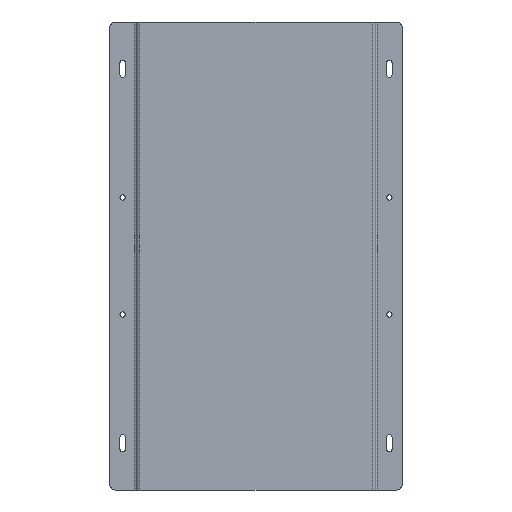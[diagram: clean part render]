
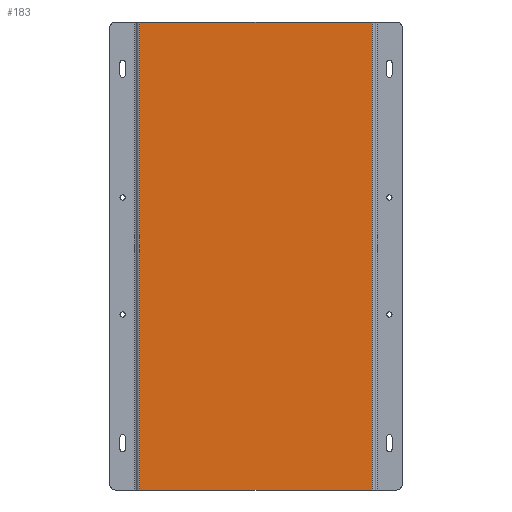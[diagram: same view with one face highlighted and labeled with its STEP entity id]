
A CAD part, front view. The second image highlights one B-rep face of the part: STEP entity #183.
In plain terms, the highlighted planar face has unit normal (0, -1, 0).
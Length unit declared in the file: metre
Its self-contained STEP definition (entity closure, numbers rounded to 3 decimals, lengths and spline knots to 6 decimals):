
#183=ADVANCED_FACE('NONE',(#434),#435,.F.);
#319=EDGE_CURVE('0:261',#677,#678,#679,.T.);
#343=EDGE_CURVE('0:255',#720,#721,#722,.T.);
#434=FACE_OUTER_BOUND('',#798,.T.);
#435=PLANE('',#799);
#677=VERTEX_POINT('',#1108);
#678=VERTEX_POINT('',#1109);
#679=LINE('',#1110,#1111);
#720=VERTEX_POINT('',#1175);
#721=VERTEX_POINT('',#1176);
#722=LINE('',#1177,#1178);
#798=EDGE_LOOP('',(#1361,#1362,#1363,#1364));
#799=AXIS2_PLACEMENT_3D('',#1365,#1366,#1367);
#1108=CARTESIAN_POINT('',(-0.0995,-0.0012,-0.2));
#1109=CARTESIAN_POINT('',(0.0995,-0.0012,-0.2));
#1110=CARTESIAN_POINT('',(0.0985,-0.0012,-0.2));
#1111=VECTOR('',#1701,1.0);
#1175=CARTESIAN_POINT('',(-0.0995,-0.0012,0.2));
#1176=CARTESIAN_POINT('',(0.0995,-0.0012,0.2));
#1177=CARTESIAN_POINT('',(0.0985,-0.0012,0.2));
#1178=VECTOR('',#1713,1.0);
#1361=ORIENTED_EDGE('',*,*,#343,.F.);
#1362=ORIENTED_EDGE('',*,*,#1771,.T.);
#1363=ORIENTED_EDGE('',*,*,#319,.T.);
#1364=ORIENTED_EDGE('',*,*,#1772,.T.);
#1365=CARTESIAN_POINT('',(0.0985,-0.0012,0.2));
#1366=DIRECTION('',(-0.0,1.0,0.0));
#1367=DIRECTION('',(1.0,0.0,0.0));
#1701=DIRECTION('',(1.0,0.0,0.0));
#1713=DIRECTION('',(1.0,0.0,0.0));
#1771=EDGE_CURVE('0:267',#720,#677,#1889,.T.);
#1772=EDGE_CURVE('0:258',#678,#721,#1890,.F.);
#1889=LINE('',#2033,#2034);
#1890=LINE('',#2035,#2036);
#2033=CARTESIAN_POINT('',(-0.0995,-0.0012,0.2));
#2034=VECTOR('',#2189,1.0);
#2035=CARTESIAN_POINT('',(0.0995,-0.0012,0.2));
#2036=VECTOR('',#2190,1.0);
#2189=DIRECTION('',(0.0,0.0,-1.0));
#2190=DIRECTION('',(0.0,0.0,-1.0));
